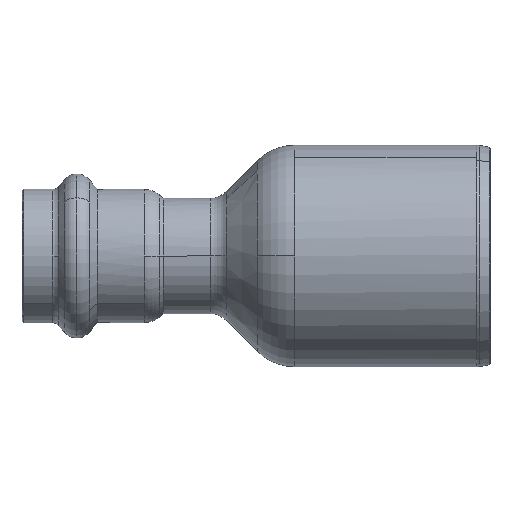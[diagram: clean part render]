
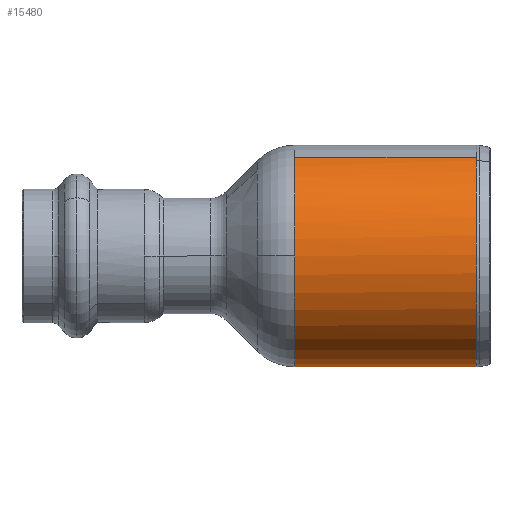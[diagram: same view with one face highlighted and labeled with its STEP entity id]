
A CAD part, left-side view. The second image highlights one B-rep face of the part: STEP entity #15480.
In plain terms, the highlighted cylindrical face has radius 21 mm (diameter 42 mm), a partial arc.
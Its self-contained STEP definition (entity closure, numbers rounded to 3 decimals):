
#1210=CARTESIAN_POINT('',(-213.591,-19.717,
18.12));
#1220=VERTEX_POINT('',#1210);
#1250=CARTESIAN_POINT('',(-202.976,-19.717,
0.));
#1260=DIRECTION('',(0.,1.,0.));
#1270=DIRECTION('',(0.505,0.,-0.863));
#1280=AXIS2_PLACEMENT_3D('',#1250,#1260,#1270);
#1290=CIRCLE('',#1280,21.);
#1300=CARTESIAN_POINT('',(-212.49,-19.717,
18.721));
#1310=VERTEX_POINT('',#1300);
#1320=EDGE_CURVE('',#1220,#1310,#1290,.T.);
#1390=CARTESIAN_POINT('',(-202.976,17.326,
0.));
#1400=DIRECTION('',(0.,-1.,0.));
#1410=DIRECTION('',(-0.453,0.,0.891));
#1420=AXIS2_PLACEMENT_3D('',#1390,#1400,#1410);
#1430=CYLINDRICAL_SURFACE('',#1420,21.);
#1440=CARTESIAN_POINT('',(-212.49,17.326,
18.721));
#1450=DIRECTION('',(0.,-1.,0.));
#1460=VECTOR('',#1450,1.);
#1470=LINE('',#1440,#1460);
#1480=CARTESIAN_POINT('',(-212.49,14.779,
18.721));
#1490=VERTEX_POINT('',#1480);
#1500=EDGE_CURVE('',#1490,#1310,#1470,.T.);
#1520=CARTESIAN_POINT('',(-202.976,14.779,
0.));
#1530=DIRECTION('',(0.,-1.,0.));
#1540=DIRECTION('',(-1.,0.,0.));
#1550=AXIS2_PLACEMENT_3D('',#1520,#1530,#1540);
#1560=CIRCLE('',#1550,21.);
#1610=CARTESIAN_POINT('',(-193.463,14.779,
-18.721));
#1620=VERTEX_POINT('',#1610);
#1650=CARTESIAN_POINT('',(-193.463,17.326,
-18.721));
#1660=DIRECTION('',(0.,-1.,0.));
#1670=VECTOR('',#1660,1.);
#1680=LINE('',#1650,#1670);
#1690=CARTESIAN_POINT('',(-193.463,-19.717,
-18.721));
#1700=VERTEX_POINT('',#1690);
#1710=EDGE_CURVE('',#1620,#1700,#1680,.T.);
#5440=CARTESIAN_POINT('',(-223.976,14.779,
0.));
#5450=VERTEX_POINT('',#5440);
#5460=EDGE_CURVE('',#1490,#5450,#1560,.T.);
#15380=EDGE_CURVE('',#5450,#1620,#1560,.T.);
#15390=ORIENTED_EDGE('',*,*,#15380,.T.);
#15400=ORIENTED_EDGE('',*,*,#5460,.T.);
#15410=ORIENTED_EDGE('',*,*,#1500,.F.);
#15420=ORIENTED_EDGE('',*,*,#1320,.T.);
#15430=EDGE_CURVE('',#1700,#1220,#1290,.T.);
#15440=ORIENTED_EDGE('',*,*,#15430,.T.);
#15450=ORIENTED_EDGE('',*,*,#1710,.T.);
#15460=EDGE_LOOP('',(#15450,#15440,#15420,#15410,#15400,#15390));
#15470=FACE_OUTER_BOUND('',#15460,.T.);
#15480=ADVANCED_FACE('',(#15470),#1430,.T.);
